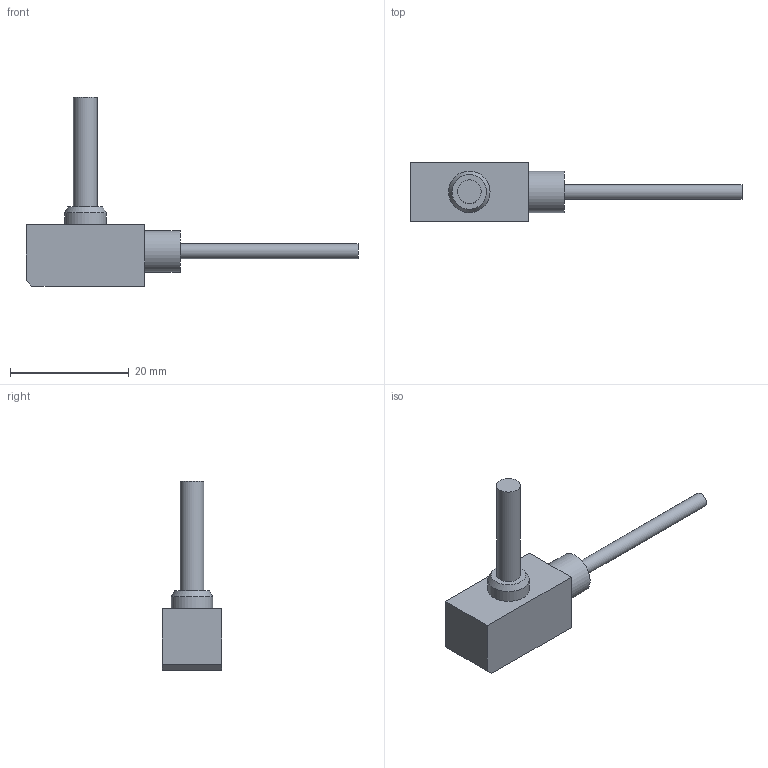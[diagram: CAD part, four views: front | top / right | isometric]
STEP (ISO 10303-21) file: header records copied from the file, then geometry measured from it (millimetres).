
FILE_DESCRIPTION(/* description */ ('MINI VACUOSTATO DIGITALE RACC.INN.d4 CAVO 3M SENZA CONNETT.'),/* implementation_level */ '2;1');
FILE_NAME(/* name */ 'C:\PNX_VAULTFOLDER\Area Tecnica\Disegni\VARIE-3D\Componenti\1900 (vuoto)\DS_10_V_B_R4_E_0.stp',/* time_stamp */ '2019-09-13T14:42:54+02:00',/* author */ ('maniean1'),/* organization */ ('Pneumax S.p.A.'),/* preprocessor_version */ 'ST-DEVELOPER v17',/* originating_system */ 'Autodesk Inventor 2019',/* authorisation */ '');
FILE_SCHEMA (('AUTOMOTIVE_DESIGN { 1 0 10303 214 3 1 1 }'));
Length unit declared in the file: millimetre
Products named in the file (1): DS.10.V.B.R4.E.0
Bounding box: 56 x 10 x 32 mm (x, y, z)
Volume: 2794.8 mm3; surface area: 1678.5 mm2
Topology: 1 solids, 1 shells, 25 faces, 53 edges, 35 vertices
Faces by surface type: plane 18, cylinder 6, cone 1
Full cylindrical faces by diameter (mm): 2.5 x1, 4 x1, 7 x2
Entity records: 711 total; most frequent: DIRECTION 118, CARTESIAN_POINT 114, ORIENTED_EDGE 106, EDGE_CURVE 53, LINE 40, VECTOR 40, AXIS2_PLACEMENT_3D 39, VERTEX_POINT 35
